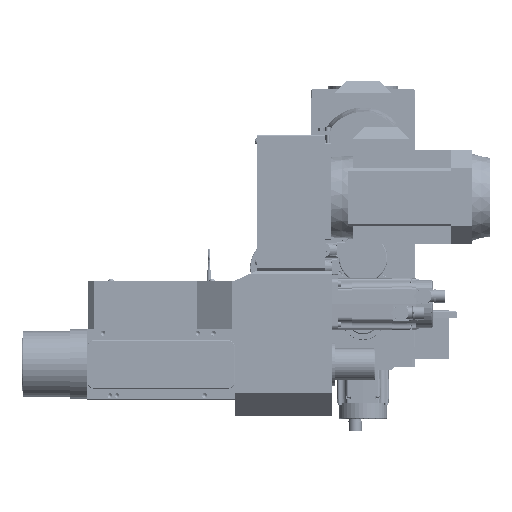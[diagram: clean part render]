
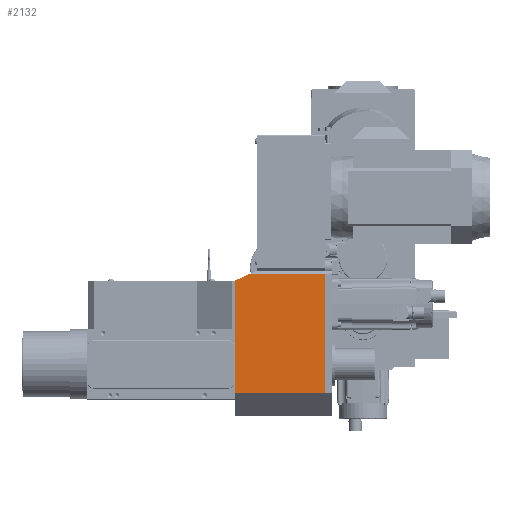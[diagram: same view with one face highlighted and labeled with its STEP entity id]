
A CAD part, front view. The second image highlights one B-rep face of the part: STEP entity #2132.
In plain terms, the highlighted planar face has unit normal (0, -1, 0) as drawn and (-1, 0, 0) by its records, which use the part's own axes.
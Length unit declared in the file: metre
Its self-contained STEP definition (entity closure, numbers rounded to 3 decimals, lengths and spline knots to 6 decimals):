
#2132 = ADVANCED_FACE( '', ( #3674 ), #3675, .F. );
#3674 = FACE_OUTER_BOUND( '', #7139, .T. );
#3675 = PLANE( '', #7140 );
#7139 = EDGE_LOOP( '', ( #12029, #12030, #12031, #12032, #12033 ) );
#7140 = AXIS2_PLACEMENT_3D( '', #12034, #12035, #12036 );
#12029 = ORIENTED_EDGE( '', *, *, #22364, .F. );
#12030 = ORIENTED_EDGE( '', *, *, #22365, .T. );
#12031 = ORIENTED_EDGE( '', *, *, #22366, .T. );
#12032 = ORIENTED_EDGE( '', *, *, #22362, .T. );
#12033 = ORIENTED_EDGE( '', *, *, #22367, .T. );
#12034 = CARTESIAN_POINT( '', ( -0.155, 0.019444, 0.253 ) );
#12035 = DIRECTION( '', ( 1., 0., 0. ) );
#12036 = DIRECTION( '', ( 0., 0., -1. ) );
#22362 = EDGE_CURVE( '', #25610, #25608, #25611, .T. );
#22364 = EDGE_CURVE( '', #25613, #25614, #25615, .T. );
#22365 = EDGE_CURVE( '', #25613, #25616, #25617, .T. );
#22366 = EDGE_CURVE( '', #25616, #25610, #25618, .T. );
#22367 = EDGE_CURVE( '', #25608, #25614, #25619, .T. );
#25608 = VERTEX_POINT( '', #31019 );
#25610 = VERTEX_POINT( '', #31022 );
#25611 = LINE( '', #31023, #31024 );
#25613 = VERTEX_POINT( '', #31027 );
#25614 = VERTEX_POINT( '', #31028 );
#25615 = LINE( '', #31029, #31030 );
#25616 = VERTEX_POINT( '', #31031 );
#25617 = LINE( '', #31032, #31033 );
#25618 = LINE( '', #31034, #31035 );
#25619 = LINE( '', #31036, #31037 );
#31019 = CARTESIAN_POINT( '', ( -0.155, 0.019444, 0.04 ) );
#31022 = CARTESIAN_POINT( '', ( -0.155, 0.019444, 0.236 ) );
#31023 = CARTESIAN_POINT( '', ( -0.155, 0.019444, 0.253 ) );
#31024 = VECTOR( '', #41017, 1. );
#31027 = CARTESIAN_POINT( '', ( -0.155, -0.137056, 0.248 ) );
#31028 = CARTESIAN_POINT( '', ( -0.155, -0.137056, 0.04 ) );
#31029 = CARTESIAN_POINT( '', ( -0.155, -0.137056, 0.253 ) );
#31030 = VECTOR( '', #41019, 1. );
#31031 = CARTESIAN_POINT( '', ( -0.155, -0.007026, 0.248 ) );
#31032 = CARTESIAN_POINT( '', ( -0.155, -0.018056, 0.248 ) );
#31033 = VECTOR( '', #41020, 1. );
#31034 = CARTESIAN_POINT( '', ( -0.155, -0.018056, 0.253 ) );
#31035 = VECTOR( '', #41021, 1. );
#31036 = CARTESIAN_POINT( '', ( -0.155, 0.019444, 0.04 ) );
#31037 = VECTOR( '', #41022, 1. );
#41017 = DIRECTION( '', ( 0., 0., -1. ) );
#41019 = DIRECTION( '', ( 0., 0., -1. ) );
#41020 = DIRECTION( '', ( 0., 1., 0. ) );
#41021 = DIRECTION( '', ( 0., 0.911, -0.413 ) );
#41022 = DIRECTION( '', ( 0., -1., 0. ) );
